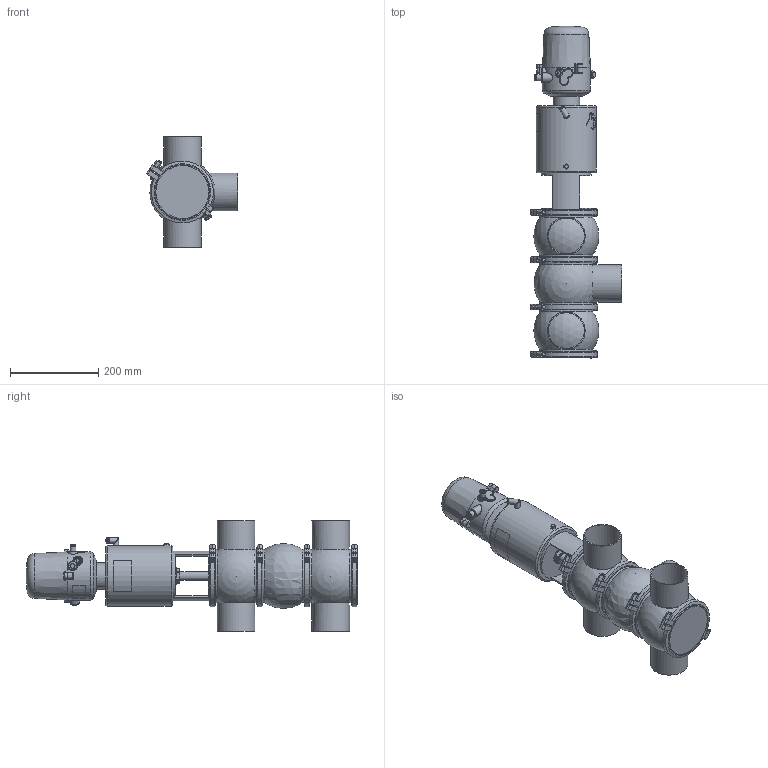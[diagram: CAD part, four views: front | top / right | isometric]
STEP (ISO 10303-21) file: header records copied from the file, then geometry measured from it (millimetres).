
FILE_DESCRIPTION (( 'STEP AP214' ), '1' );
FILE_NAME ('INNOVA L W W DIN 080 T3 AS NC & C-TOP S_10.241.16.0064.STEP', '2024-08-06T12:21:14', ( '' ), ( '' ), 'SwSTEP 2.0', 'SolidWorks 2023', '' );
FILE_SCHEMA (( 'AUTOMOTIVE_DESIGN' ));
Length unit declared in the file: millimetre
Products named in the file (9): 10.240.15.0007_DIN 080; 10.240.15.0017_Estàndard; INNOVA L W W DIN 080 T3 AS NC & C-TOP S_10.241.16.0064; 10.241.15.0001_DIN 080; 10.240.15.0001_DN 080; 10.240.15.0014_T3 AS P180; 10.240.15.0006_DIN 080; 10.426.15.0001_C-TOP S - 1 EV; 10.240.15.0010_DN 080
Assembly tree (12 placements, depth 2):
  INNOVA L W W DIN 080 T3 AS NC & C-TOP S_10.241.16.0064
    10.240.15.0007_DIN 080  x2
    10.240.15.0006_DIN 080
    10.240.15.0010_DN 080
    10.240.15.0014_T3 AS P180
    10.240.15.0017_Estàndard
    10.426.15.0001_C-TOP S - 1 EV
    10.240.15.0001_DN 080  x4
    10.241.15.0001_DIN 080
Bounding box: 206.43 x 750.63 x 250 mm (x, y, z)
Volume: 8949189.3 mm3; surface area: 786033.4 mm2
Topology: 13 solids, 13 shells, 1317 faces, 3233 edges, 2144 vertices
Faces by surface type: plane 479, cylinder 407, cone 221, bspline 160, torus 36, sphere 14
Full cylindrical faces by diameter (mm): 0.371 x17, 0.512 x16, 0.658 x16, 0.795 x16, 0.94 x15, 1.098 x15, 1.241 x13, 1.382 x13, 1.523 x11, 1.669 x10, 2.201 x1, 4 x2, 5.5 x2, 6 x2, 6.15 x1, 8 x10, 8.5 x1, 10 x1, 10.5 x1, 11 x2, 12.5 x3, 13 x2, 13.5 x2, 16 x1, 17 x3, 20 x3, 20.5 x1, 22 x2, 31 x1, 34.5 x3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
Entity records: 58226 total; most frequent: CARTESIAN_POINT 27819, ORIENTED_EDGE 4538, DIRECTION 3689, EDGE_CURVE 2269, VERTEX_POINT 1614, EDGE_LOOP 1575, AXIS2_PLACEMENT_3D 1516, FACE_OUTER_BOUND 1338
